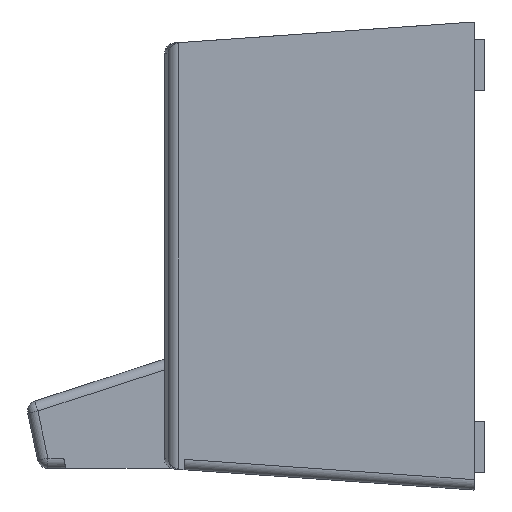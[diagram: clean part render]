
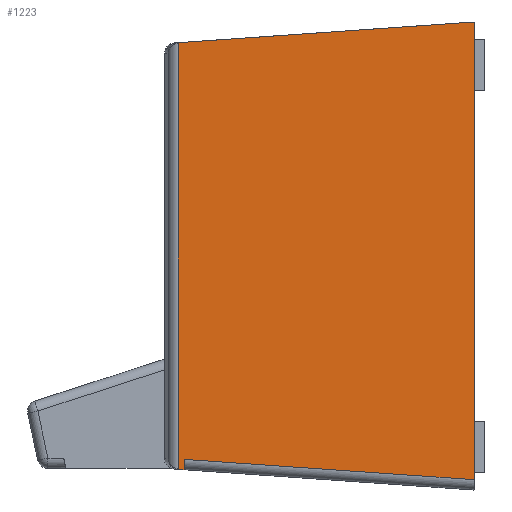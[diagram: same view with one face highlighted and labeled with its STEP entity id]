
A CAD part, left-side view. The second image highlights one B-rep face of the part: STEP entity #1223.
In plain terms, the highlighted planar face has unit normal (-1, 0, 0).
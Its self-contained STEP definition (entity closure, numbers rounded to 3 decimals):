
#130 = CARTESIAN_POINT ( 'NONE',  ( -585., 0.024, 1015.277 ) ) ;
#219 = LINE ( 'NONE', #2679, #5645 ) ;
#309 = EDGE_CURVE ( 'NONE', #4285, #6879, #5317, .T. ) ;
#331 = DIRECTION ( 'NONE',  ( 0., 0., 1. ) ) ;
#469 = CARTESIAN_POINT ( 'NONE',  ( -585., -19.929, 454.846 ) ) ;
#503 = DIRECTION ( 'NONE',  ( 0., 0.998, -0.07 ) ) ;
#536 = LINE ( 'NONE', #469, #6355 ) ;
#560 = CARTESIAN_POINT ( 'NONE',  ( -585., 561.967, -394.107 ) ) ;
#589 = CARTESIAN_POINT ( 'NONE',  ( -585., 573.234, 739.838 ) ) ;
#728 = EDGE_CURVE ( 'NONE', #7193, #6879, #6809, .T. ) ;
#850 = CARTESIAN_POINT ( 'NONE',  ( -585., 83.037, -447.646 ) ) ;
#1071 = CARTESIAN_POINT ( 'NONE',  ( -585., 0.024, -433.402 ) ) ;
#1079 = CARTESIAN_POINT ( 'NONE',  ( -585., -1.371, -433.499 ) ) ;
#1121 = ORIENTED_EDGE ( 'NONE', *, *, #6702, .F. ) ;
#1223 = ADVANCED_FACE ( 'NONE', ( #3307 ), #1557, .F. ) ;
#1546 = VERTEX_POINT ( 'NONE', #6030 ) ;
#1557 = PLANE ( 'NONE',  #4004 ) ;
#1575 = VERTEX_POINT ( 'NONE', #5990 ) ;
#1759 = DIRECTION ( 'NONE',  ( 0., 0., -1. ) ) ;
#1795 = LINE ( 'NONE', #589, #7105 ) ;
#2437 = DIRECTION ( 'NONE',  ( 0., 0., -1. ) ) ;
#2457 = EDGE_CURVE ( 'NONE', #1546, #1575, #536, .T. ) ;
#2514 = LINE ( 'NONE', #850, #4919 ) ;
#2519 = EDGE_LOOP ( 'NONE', ( #3361, #3944, #1121, #7450, #7100, #5308, #4473, #4209, #4123 ) ) ;
#2679 = CARTESIAN_POINT ( 'NONE',  ( -585., 561.967, 739.838 ) ) ;
#2793 = B_SPLINE_CURVE_WITH_KNOTS ( 'NONE', 3,
 ( #2827, #5712, #5252, #4030 ),
 .UNSPECIFIED., .F., .F.,
 ( 4, 4 ),
 ( 0., 1. ),
 .UNSPECIFIED. ) ;
#2827 = CARTESIAN_POINT ( 'NONE',  ( -585., 573.234, -413.247 ) ) ;
#3094 = CARTESIAN_POINT ( 'NONE',  ( -585., 572.497, 413.379 ) ) ;
#3130 = CARTESIAN_POINT ( 'NONE',  ( -585., 573.234, 413.247 ) ) ;
#3226 = EDGE_CURVE ( 'NONE', #1575, #4471, #5556, .T. ) ;
#3307 = FACE_OUTER_BOUND ( 'NONE', #2519, .T. ) ;
#3361 = ORIENTED_EDGE ( 'NONE', *, *, #6563, .T. ) ;
#3406 = EDGE_CURVE ( 'NONE', #4859, #3977, #2793, .T. ) ;
#3514 = CARTESIAN_POINT ( 'NONE',  ( -585., 561.967, -414.156 ) ) ;
#3592 = CARTESIAN_POINT ( 'NONE',  ( -585., 571.007, 413.523 ) ) ;
#3776 = DIRECTION ( 'NONE',  ( 0., 0., -1. ) ) ;
#3944 = ORIENTED_EDGE ( 'NONE', *, *, #3406, .T. ) ;
#3977 = VERTEX_POINT ( 'NONE', #4461 ) ;
#4004 = AXIS2_PLACEMENT_3D ( 'NONE', #5121, #4552, #6913 ) ;
#4030 = CARTESIAN_POINT ( 'NONE',  ( -585., 571.007, -413.523 ) ) ;
#4123 = ORIENTED_EDGE ( 'NONE', *, *, #3226, .T. ) ;
#4209 = ORIENTED_EDGE ( 'NONE', *, *, #2457, .T. ) ;
#4227 = CARTESIAN_POINT ( 'NONE',  ( -585., 573.234, -413.247 ) ) ;
#4285 = VERTEX_POINT ( 'NONE', #5446 ) ;
#4461 = CARTESIAN_POINT ( 'NONE',  ( -585., 571.007, -413.523 ) ) ;
#4471 = VERTEX_POINT ( 'NONE', #6824 ) ;
#4473 = ORIENTED_EDGE ( 'NONE', *, *, #7419, .F. ) ;
#4552 = DIRECTION ( 'NONE',  ( 1., 0., 0. ) ) ;
#4859 = VERTEX_POINT ( 'NONE', #4227 ) ;
#4919 = VECTOR ( 'NONE', #6078, 1000. ) ;
#5121 = CARTESIAN_POINT ( 'NONE',  ( -585., 0., 739.838 ) ) ;
#5252 = CARTESIAN_POINT ( 'NONE',  ( -585., 571.754, -413.471 ) ) ;
#5308 = ORIENTED_EDGE ( 'NONE', *, *, #309, .F. ) ;
#5317 = LINE ( 'NONE', #130, #6279 ) ;
#5446 = CARTESIAN_POINT ( 'NONE',  ( -585., 0.024, 450.047 ) ) ;
#5556 = B_SPLINE_CURVE_WITH_KNOTS ( 'NONE', 3,
 ( #3592, #7123, #3094, #3130 ),
 .UNSPECIFIED., .F., .F.,
 ( 4, 4 ),
 ( 0., 1. ),
 .UNSPECIFIED. ) ;
#5645 = VECTOR ( 'NONE', #3776, 1000. ) ;
#5712 = CARTESIAN_POINT ( 'NONE',  ( -585., 572.497, -413.379 ) ) ;
#5921 = EDGE_CURVE ( 'NONE', #7193, #6194, #219, .T. ) ;
#5978 = CARTESIAN_POINT ( 'NONE',  ( -585., 20.024, 450.047 ) ) ;
#5990 = CARTESIAN_POINT ( 'NONE',  ( -585., 571.007, 413.523 ) ) ;
#6030 = CARTESIAN_POINT ( 'NONE',  ( -585., 0.313, 453.43 ) ) ;
#6078 = DIRECTION ( 'NONE',  ( 0., 0.998, 0.07 ) ) ;
#6178 = CIRCLE ( 'NONE', #7157, 20. ) ;
#6194 = VERTEX_POINT ( 'NONE', #3514 ) ;
#6279 = VECTOR ( 'NONE', #2437, 1000. ) ;
#6355 = VECTOR ( 'NONE', #503, 1000. ) ;
#6563 = EDGE_CURVE ( 'NONE', #4471, #4859, #1795, .T. ) ;
#6621 = DIRECTION ( 'NONE',  ( 1., 0., 0. ) ) ;
#6702 = EDGE_CURVE ( 'NONE', #6194, #3977, #2514, .T. ) ;
#6809 = LINE ( 'NONE', #1079, #7288 ) ;
#6824 = CARTESIAN_POINT ( 'NONE',  ( -585., 573.234, 413.247 ) ) ;
#6879 = VERTEX_POINT ( 'NONE', #1071 ) ;
#6883 = DIRECTION ( 'NONE',  ( 0., -0.998, -0.07 ) ) ;
#6913 = DIRECTION ( 'NONE',  ( 0., 1., 0. ) ) ;
#7100 = ORIENTED_EDGE ( 'NONE', *, *, #728, .T. ) ;
#7105 = VECTOR ( 'NONE', #1759, 1000. ) ;
#7123 = CARTESIAN_POINT ( 'NONE',  ( -585., 571.754, 413.471 ) ) ;
#7157 = AXIS2_PLACEMENT_3D ( 'NONE', #5978, #6621, #331 ) ;
#7193 = VERTEX_POINT ( 'NONE', #560 ) ;
#7288 = VECTOR ( 'NONE', #6883, 1000. ) ;
#7419 = EDGE_CURVE ( 'NONE', #1546, #4285, #6178, .T. ) ;
#7450 = ORIENTED_EDGE ( 'NONE', *, *, #5921, .F. ) ;
